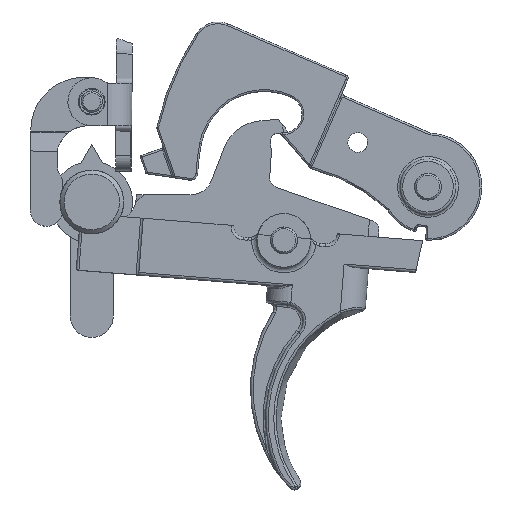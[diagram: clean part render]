
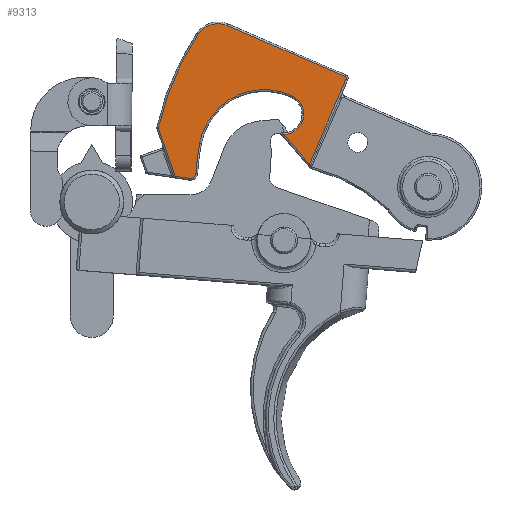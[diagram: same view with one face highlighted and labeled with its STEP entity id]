
A CAD part, top view. The second image highlights one B-rep face of the part: STEP entity #9313.
In plain terms, the highlighted planar face has unit normal (0, 0, 1).
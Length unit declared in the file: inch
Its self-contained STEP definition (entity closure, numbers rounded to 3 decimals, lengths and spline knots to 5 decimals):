
#1037=CIRCLE('',#10441,0.01);
#1082=CIRCLE('',#10530,0.031);
#1084=CIRCLE('',#10533,1.36056);
#1086=CIRCLE('',#10536,0.385);
#1088=CIRCLE('',#10540,0.11935);
#1101=CIRCLE('',#10563,0.141);
#1103=CIRCLE('',#10566,1.615);
#1281=PLANE('',#10573);
#1853=FACE_OUTER_BOUND('',#2503,.T.);
#2503=EDGE_LOOP('',(#8501,#8502,#8503,#8504,#8505,#8506,#8507,#8508,#8509,
#8510,#8511,#8512,#8513));
#2979=LINE('',#24782,#3543);
#3021=LINE('',#25056,#3585);
#3077=LINE('',#25938,#3641);
#3081=LINE('',#25967,#3645);
#3083=LINE('',#25972,#3647);
#3084=LINE('',#25974,#3648);
#3543=VECTOR('',#12729,0.3937);
#3585=VECTOR('',#12921,0.3937);
#3641=VECTOR('',#13309,0.3937);
#3645=VECTOR('',#13351,0.3937);
#3647=VECTOR('',#13357,0.3937);
#3648=VECTOR('',#13360,0.3937);
#4336=VERTEX_POINT('',#24695);
#4350=VERTEX_POINT('',#24780);
#4410=VERTEX_POINT('',#25042);
#4413=VERTEX_POINT('',#25054);
#4466=VERTEX_POINT('',#25563);
#4498=VERTEX_POINT('',#25858);
#4500=VERTEX_POINT('',#25924);
#4501=VERTEX_POINT('',#25928);
#4502=VERTEX_POINT('',#25932);
#4503=VERTEX_POINT('',#25936);
#4508=VERTEX_POINT('',#25958);
#4510=VERTEX_POINT('',#25970);
#4512=VERTEX_POINT('',#25978);
#5570=EDGE_CURVE('',#4350,#4336,#2979,.T.);
#5664=EDGE_CURVE('',#4413,#4410,#3021,.T.);
#5740=EDGE_CURVE('',#4466,#4350,#1037,.T.);
#5818=EDGE_CURVE('',#4500,#4413,#1082,.T.);
#5820=EDGE_CURVE('',#4501,#4500,#1084,.T.);
#5822=EDGE_CURVE('',#4502,#4501,#1086,.T.);
#5824=EDGE_CURVE('',#4503,#4502,#3077,.T.);
#5825=EDGE_CURVE('',#4498,#4503,#1088,.T.);
#5839=EDGE_CURVE('',#4410,#4508,#3081,.T.);
#5842=EDGE_CURVE('',#4510,#4466,#3083,.T.);
#5843=EDGE_CURVE('',#4336,#4498,#3084,.T.);
#5846=EDGE_CURVE('',#4512,#4510,#1101,.T.);
#5848=EDGE_CURVE('',#4508,#4512,#1103,.T.);
#8501=ORIENTED_EDGE('',*,*,#5839,.F.);
#8502=ORIENTED_EDGE('',*,*,#5664,.F.);
#8503=ORIENTED_EDGE('',*,*,#5818,.F.);
#8504=ORIENTED_EDGE('',*,*,#5820,.F.);
#8505=ORIENTED_EDGE('',*,*,#5822,.F.);
#8506=ORIENTED_EDGE('',*,*,#5824,.F.);
#8507=ORIENTED_EDGE('',*,*,#5825,.F.);
#8508=ORIENTED_EDGE('',*,*,#5843,.F.);
#8509=ORIENTED_EDGE('',*,*,#5570,.F.);
#8510=ORIENTED_EDGE('',*,*,#5740,.F.);
#8511=ORIENTED_EDGE('',*,*,#5842,.F.);
#8512=ORIENTED_EDGE('',*,*,#5846,.F.);
#8513=ORIENTED_EDGE('',*,*,#5848,.F.);
#9313=ADVANCED_FACE('',(#1853),#1281,.T.);
#10441=AXIS2_PLACEMENT_3D('',#25565,#13087,#13088);
#10530=AXIS2_PLACEMENT_3D('',#25926,#13291,#13292);
#10533=AXIS2_PLACEMENT_3D('',#25930,#13297,#13298);
#10536=AXIS2_PLACEMENT_3D('',#25934,#13303,#13304);
#10540=AXIS2_PLACEMENT_3D('',#25940,#13312,#13313);
#10563=AXIS2_PLACEMENT_3D('',#25980,#13366,#13367);
#10566=AXIS2_PLACEMENT_3D('',#25983,#13372,#13373);
#10573=AXIS2_PLACEMENT_3D('',#25992,#13388,#13389);
#12729=DIRECTION('',(-0.358,-0.934,0.));
#12921=DIRECTION('',(-0.995,0.105,0.));
#13087=DIRECTION('center_axis',(0.,0.,-1.));
#13088=DIRECTION('ref_axis',(0.914,0.407,0.));
#13291=DIRECTION('center_axis',(0.,0.,-1.));
#13292=DIRECTION('ref_axis',(0.663,-0.748,0.));
#13297=DIRECTION('center_axis',(0.,0.,1.));
#13298=DIRECTION('ref_axis',(-0.997,0.081,0.));
#13303=DIRECTION('center_axis',(0.,0.,1.));
#13304=DIRECTION('ref_axis',(-0.504,0.863,0.));
#13309=DIRECTION('',(-0.934,0.358,0.));
#13312=DIRECTION('center_axis',(0.,0.,1.));
#13313=DIRECTION('ref_axis',(0.979,-0.204,0.));
#13351=DIRECTION('',(-0.371,0.929,0.));
#13357=DIRECTION('',(0.934,-0.358,0.));
#13360=DIRECTION('',(-0.688,0.725,0.));
#13366=DIRECTION('center_axis',(0.,0.,-1.));
#13367=DIRECTION('ref_axis',(-0.325,0.946,0.));
#13372=DIRECTION('center_axis',(0.,0.,-1.));
#13373=DIRECTION('ref_axis',(-0.937,0.349,0.));
#13388=DIRECTION('center_axis',(0.,0.,1.));
#13389=DIRECTION('ref_axis',(1.,0.,0.));
#24695=CARTESIAN_POINT('',(-0.69934,0.10356,0.3));
#24780=CARTESIAN_POINT('',(-0.50441,0.61137,0.3));
#24782=CARTESIAN_POINT('',(-0.58907,0.39082,0.3));
#25042=CARTESIAN_POINT('',(-1.48028,-0.00027,0.3));
#25054=CARTESIAN_POINT('',(-1.39463,-0.00927,0.3));
#25056=CARTESIAN_POINT('',(-1.22169,-0.02745,0.3));
#25563=CARTESIAN_POINT('',(-0.51016,0.62429,0.3));
#25565=CARTESIAN_POINT('Origin',(-0.51374,0.61495,0.3));
#25858=CARTESIAN_POINT('',(-0.85704,0.26974,0.3));
#25924=CARTESIAN_POINT('',(-1.3604,0.02108,0.3));
#25926=CARTESIAN_POINT('Origin',(-1.39139,0.02156,0.3));
#25928=CARTESIAN_POINT('',(-1.34582,0.19973,0.3));
#25930=CARTESIAN_POINT('Origin',(0.,0.,0.3));
#25932=CARTESIAN_POINT('',(-0.827,0.50276,0.3));
#25934=CARTESIAN_POINT('Origin',(-0.96497,0.14334,0.3));
#25936=CARTESIAN_POINT('',(-0.8207,0.50034,0.3));
#25938=CARTESIAN_POINT('',(-0.76165,0.47768,0.3));
#25940=CARTESIAN_POINT('Origin',(-0.86347,0.38892,0.3));
#25958=CARTESIAN_POINT('',(-1.59102,0.27729,0.3));
#25967=CARTESIAN_POINT('',(-1.53857,0.14584,0.3));
#25970=CARTESIAN_POINT('',(-1.21134,0.89345,0.3));
#25972=CARTESIAN_POINT('',(-0.55322,0.64082,0.3));
#25974=CARTESIAN_POINT('',(-0.84495,0.25699,0.3));
#25978=CARTESIAN_POINT('',(-1.38258,0.83469,0.3));
#25980=CARTESIAN_POINT('Origin',(-1.26187,0.76181,0.3));
#25983=CARTESIAN_POINT('Origin',(0.,0.,0.3));
#25992=CARTESIAN_POINT('Origin',(-0.75349,0.30363,0.3));
